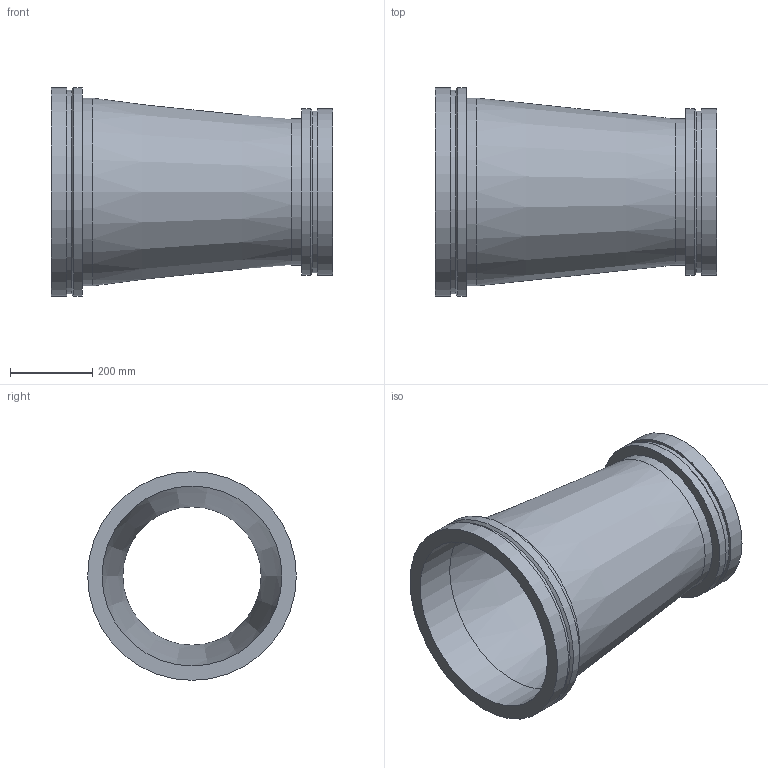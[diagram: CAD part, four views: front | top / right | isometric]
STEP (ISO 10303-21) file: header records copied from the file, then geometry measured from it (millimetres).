
FILE_DESCRIPTION(/* description */ ('VIC REDUCER CONCENTRIC No W50 VR','CAx-IF Rec.Pracs.---Representation and Presentation of Product Manufacturing Information (PMI)---4.0---2014-10-13'),/* implementation_level */ '2;1');
FILE_NAME(/* name */ 'C:\Users\kkamble\AppData\Roaming\Autodesk\ApplicationPlugins\Back Up\Victaulic_Vic-Ring_Reducer Concentric_No W50 VR (AGR)\Victaulic_Vic-Ring_Reducer Concentric_No W50 VR (AGR)_18.0x14.0 (450x350).stp',/* time_stamp */ '2020-09-10T11:45:18+05:00',/* author */ ('cps_temp'),/* organization */ ('Victaulic'),/* preprocessor_version */ 'ST-DEVELOPER v17.2',/* originating_system */ 'Autodesk Inventor 2019',/* authorisation */ '');
FILE_SCHEMA (('AP242_MANAGED_MODEL_BASED_3D_ENGINEERING_MIM_LF { 1 0 10303 442 1 1 4 }'));
Length unit declared in the file: inch
Products named in the file (1): W50 VR-18.0x14.0
Bounding box: 685.8 x 508 x 508 mm (x, y, z)
Volume: 13139605.4 mm3; surface area: 1927926.2 mm2
Topology: 1 solids, 1 shells, 20 faces, 54 edges, 40 vertices
Faces by surface type: cylinder 10, plane 6, cone 4
Full cylindrical faces by diameter (mm): 336.55 x1, 355.6 x1, 393.7 x1, 406.4 x2, 438.15 x1, 457.2 x1, 495.3 x1, 508 x2
Entity records: 830 total; most frequent: DIRECTION 162, CARTESIAN_POINT 132, ORIENTED_EDGE 108, AXIS2_PLACEMENT_3D 74, EDGE_CURVE 54, CIRCLE 40, VERTEX_POINT 40, EDGE_LOOP 26
